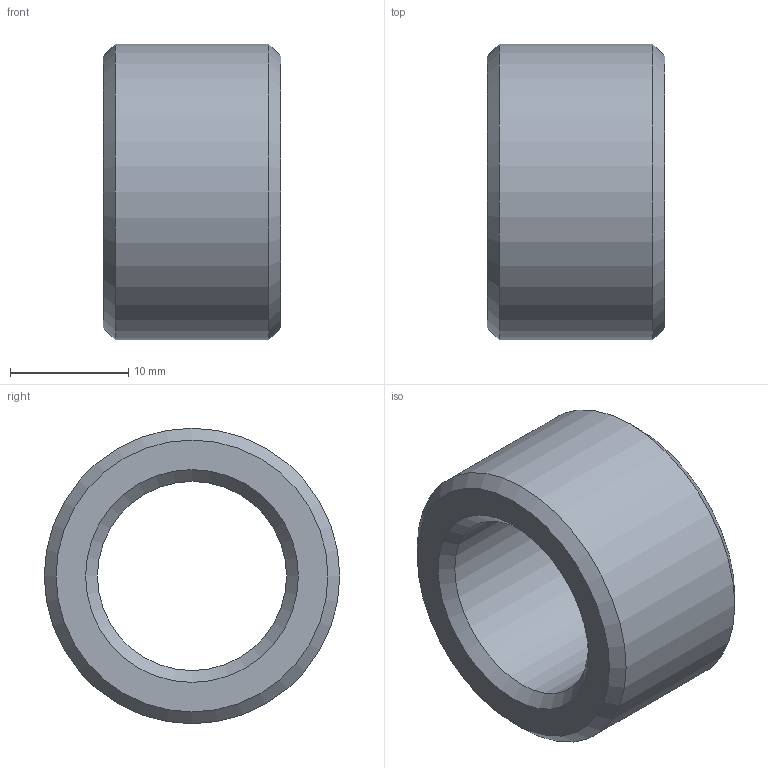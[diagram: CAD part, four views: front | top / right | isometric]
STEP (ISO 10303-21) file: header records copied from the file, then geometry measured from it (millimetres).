
FILE_DESCRIPTION(/* description */ (''),/* implementation_level */ '2;1');
FILE_NAME(/* name */ '',/* time_stamp */ '2026-09-29T15:29:25+09:00',/* author */ ('jhkim'),/* organization */ (''),/* preprocessor_version */ 'ST-DEVELOPER v20.1',/* originating_system */ 'Autodesk Inventor 2027',/* authorisation */ '');
FILE_SCHEMA (('AUTOMOTIVE_DESIGN { 1 0 10303 214 3 1 1 }'));
Length unit declared in the file: millimetre
Products named in the file (1): 베어링 부시
Bounding box: 15 x 25 x 25 mm (x, y, z)
Volume: 4218.4 mm3; surface area: 2360.8 mm2
Topology: 1 solids, 1 shells, 8 faces, 18 edges, 12 vertices
Faces by surface type: cone 4, cylinder 2, plane 2
Full cylindrical faces by diameter (mm): 16 x1, 25 x1
Entity records: 281 total; most frequent: DIRECTION 48, CARTESIAN_POINT 39, ORIENTED_EDGE 36, AXIS2_PLACEMENT_3D 21, EDGE_CURVE 18, CIRCLE 12, VERTEX_POINT 12, EDGE_LOOP 10
